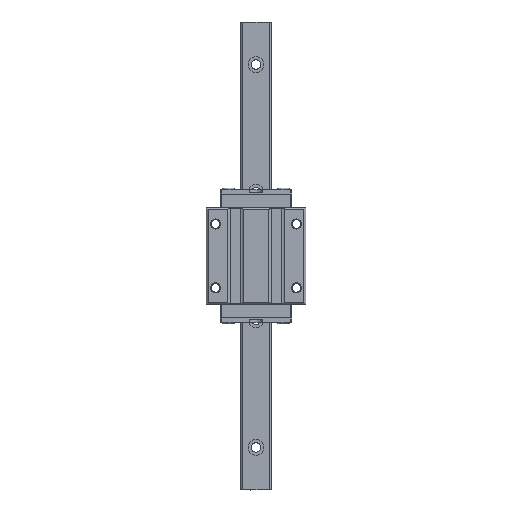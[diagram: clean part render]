
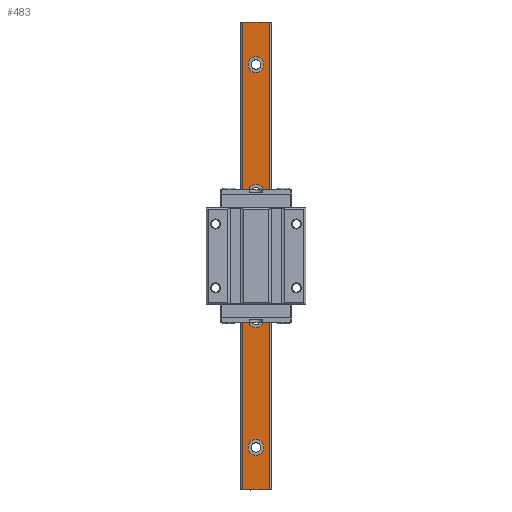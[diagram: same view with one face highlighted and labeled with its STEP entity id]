
A CAD part, top view. The second image highlights one B-rep face of the part: STEP entity #483.
In plain terms, the highlighted planar face has unit normal (0, 0, 1).
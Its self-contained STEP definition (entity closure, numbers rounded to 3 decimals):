
#483 = ADVANCED_FACE( '', ( #1094, #1095, #1096, #1097, #1098 ), #1099, .F. );
#1094 = FACE_BOUND( '', #1931, .T. );
#1095 = FACE_BOUND( '', #1932, .T. );
#1096 = FACE_BOUND( '', #1933, .T. );
#1097 = FACE_BOUND( '', #1934, .T. );
#1098 = FACE_OUTER_BOUND( '', #1935, .T. );
#1099 = PLANE( '', #1936 );
#1931 = EDGE_LOOP( '', ( #3020 ) );
#1932 = EDGE_LOOP( '', ( #3021 ) );
#1933 = EDGE_LOOP( '', ( #3022 ) );
#1934 = EDGE_LOOP( '', ( #3023 ) );
#1935 = EDGE_LOOP( '', ( #3024, #3025, #3026, #3027 ) );
#1936 = AXIS2_PLACEMENT_3D( '', #3028, #3029, #3030 );
#3020 = ORIENTED_EDGE( '', *, *, #5873, .T. );
#3021 = ORIENTED_EDGE( '', *, *, #5874, .T. );
#3022 = ORIENTED_EDGE( '', *, *, #5875, .T. );
#3023 = ORIENTED_EDGE( '', *, *, #5876, .T. );
#3024 = ORIENTED_EDGE( '', *, *, #5812, .T. );
#3025 = ORIENTED_EDGE( '', *, *, #5872, .F. );
#3026 = ORIENTED_EDGE( '', *, *, #5844, .F. );
#3027 = ORIENTED_EDGE( '', *, *, #5877, .T. );
#3028 = CARTESIAN_POINT( '', ( -6.15, -110., 13. ) );
#3029 = DIRECTION( '', ( 0., 0., -1. ) );
#3030 = DIRECTION( '', ( -1., 0., 0. ) );
#5812 = EDGE_CURVE( '', #6771, #6769, #6772, .T. );
#5844 = EDGE_CURVE( '', #6828, #6830, #6831, .T. );
#5872 = EDGE_CURVE( '', #6830, #6769, #6871, .T. );
#5873 = EDGE_CURVE( '', #6872, #6872, #6873, .T. );
#5874 = EDGE_CURVE( '', #6874, #6874, #6875, .T. );
#5875 = EDGE_CURVE( '', #6876, #6876, #6877, .T. );
#5876 = EDGE_CURVE( '', #6878, #6878, #6879, .T. );
#5877 = EDGE_CURVE( '', #6828, #6771, #6880, .T. );
#6769 = VERTEX_POINT( '', #8205 );
#6771 = VERTEX_POINT( '', #8208 );
#6772 = LINE( '', #8209, #8210 );
#6828 = VERTEX_POINT( '', #8292 );
#6830 = VERTEX_POINT( '', #8295 );
#6831 = LINE( '', #8296, #8297 );
#6871 = LINE( '', #8356, #8357 );
#6872 = VERTEX_POINT( '', #8358 );
#6873 = CIRCLE( '', #8359, 3.75 );
#6874 = VERTEX_POINT( '', #8360 );
#6875 = CIRCLE( '', #8361, 3.75 );
#6876 = VERTEX_POINT( '', #8362 );
#6877 = CIRCLE( '', #8363, 3.75 );
#6878 = VERTEX_POINT( '', #8364 );
#6879 = CIRCLE( '', #8365, 3.75 );
#6880 = LINE( '', #8366, #8367 );
#8205 = CARTESIAN_POINT( '', ( -6.15, 110., 13. ) );
#8208 = CARTESIAN_POINT( '', ( 6.15, 110., 13. ) );
#8209 = CARTESIAN_POINT( '', ( -6.15, 110., 13. ) );
#8210 = VECTOR( '', #10658, 1000. );
#8292 = CARTESIAN_POINT( '', ( 6.15, -110., 13. ) );
#8295 = CARTESIAN_POINT( '', ( -6.15, -110., 13. ) );
#8296 = CARTESIAN_POINT( '', ( -6.15, -110., 13. ) );
#8297 = VECTOR( '', #10698, 1000. );
#8356 = CARTESIAN_POINT( '', ( -6.15, -110., 13. ) );
#8357 = VECTOR( '', #10742, 1000. );
#8358 = CARTESIAN_POINT( '', ( 3.75, 90., 13. ) );
#8359 = AXIS2_PLACEMENT_3D( '', #10743, #10744, #10745 );
#8360 = CARTESIAN_POINT( '', ( 3.75, 30., 13. ) );
#8361 = AXIS2_PLACEMENT_3D( '', #10746, #10747, #10748 );
#8362 = CARTESIAN_POINT( '', ( 3.75, -30., 13. ) );
#8363 = AXIS2_PLACEMENT_3D( '', #10749, #10750, #10751 );
#8364 = CARTESIAN_POINT( '', ( 3.75, -90., 13. ) );
#8365 = AXIS2_PLACEMENT_3D( '', #10752, #10753, #10754 );
#8366 = CARTESIAN_POINT( '', ( 6.15, -110., 13. ) );
#8367 = VECTOR( '', #10755, 1000. );
#10658 = DIRECTION( '', ( -1., 0., 0. ) );
#10698 = DIRECTION( '', ( -1., 0., 0. ) );
#10742 = DIRECTION( '', ( 0., 1., 0. ) );
#10743 = CARTESIAN_POINT( '', ( 0., 90., 13. ) );
#10744 = DIRECTION( '', ( 0., 0., -1. ) );
#10745 = DIRECTION( '', ( 1., 0., 0. ) );
#10746 = CARTESIAN_POINT( '', ( 0., 30., 13. ) );
#10747 = DIRECTION( '', ( 0., 0., -1. ) );
#10748 = DIRECTION( '', ( 1., 0., 0. ) );
#10749 = CARTESIAN_POINT( '', ( 0., -30., 13. ) );
#10750 = DIRECTION( '', ( 0., 0., -1. ) );
#10751 = DIRECTION( '', ( 1., 0., 0. ) );
#10752 = CARTESIAN_POINT( '', ( 0., -90., 13. ) );
#10753 = DIRECTION( '', ( 0., 0., -1. ) );
#10754 = DIRECTION( '', ( 1., 0., 0. ) );
#10755 = DIRECTION( '', ( 0., 1., 0. ) );
